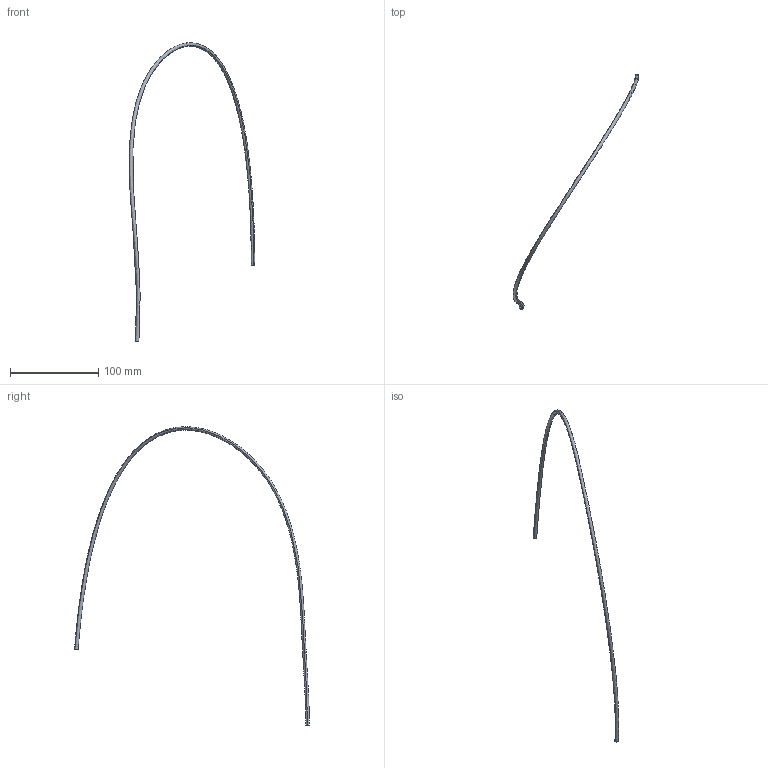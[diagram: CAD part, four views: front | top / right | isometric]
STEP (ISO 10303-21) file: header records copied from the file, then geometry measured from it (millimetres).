
FILE_DESCRIPTION(/* description */ (''),/* implementation_level */ '2;1');
FILE_NAME(/* name */ 'TUBOPT~1',/* time_stamp */ '2019-04-01T21:28:17-03:00',/* author */ (''),/* organization */ (''),/* preprocessor_version */ 'ST-DEVELOPER v16.5',/* originating_system */ '',/* authorisation */ '');
FILE_SCHEMA (('AUTOMOTIVE_DESIGN'));
Length unit declared in the file: millimetre
Products named in the file (1): Document
Bounding box: 142 x 265.75 x 337.73 mm (x, y, z)
Surface area: 9164.3 mm2 (no closed solid volume)
Topology: 0 solids, 1 shells, 2 faces, 6 edges, 4 vertices
Faces by surface type: bspline 2
Entity records: 1243 total; most frequent: CARTESIAN_POINT 1194, ORIENTED_EDGE 8, EDGE_CURVE 6, VERTEX_POINT 4, DIRECTION 4, ADVANCED_FACE 2, FACE_OUTER_BOUND 2, EDGE_LOOP 2
